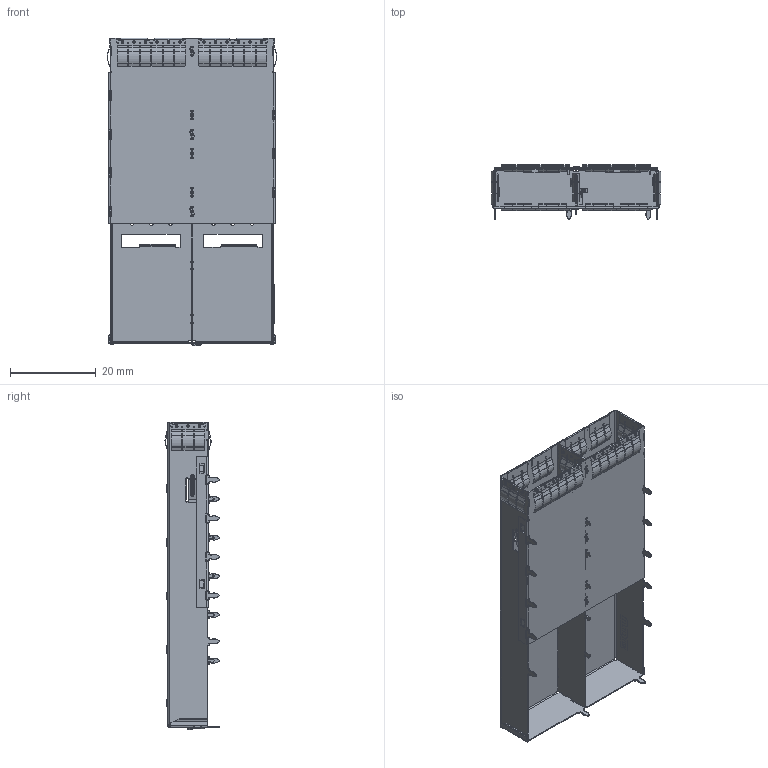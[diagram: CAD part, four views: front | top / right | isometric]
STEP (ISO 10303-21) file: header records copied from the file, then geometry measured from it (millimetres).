
FILE_DESCRIPTION (( 'STEP AP214' ), '1' );
FILE_NAME ('SD20-0000010000-0000-X.STEP', '2021-06-16T03:36:46', ( '' ), ( '' ), 'SwSTEP 2.0', 'SolidWorks 2012', '' );
FILE_SCHEMA (( 'AUTOMOTIVE_DESIGN' ));
Length unit declared in the file: millimetre
Products named in the file (1): SD20-0000010000-0000-X
Bounding box: 39.55 x 12.6 x 71.72 mm (x, y, z)
Volume: 1730.1 mm3; surface area: 15803.7 mm2
Topology: 10 solids, 10 shells, 3918 faces, 10070 edges, 6136 vertices
Faces by surface type: plane 1936, cylinder 1576, torus 208, sphere 132, bspline 66
Entity records: 165852 total; most frequent: CARTESIAN_POINT 25791, DIRECTION 20877, ORIENTED_EDGE 20140, EDGE_CURVE 10070, AXIS2_PLACEMENT_3D 7422, VERTEX_POINT 6136, VECTOR 6033, LINE 6033
